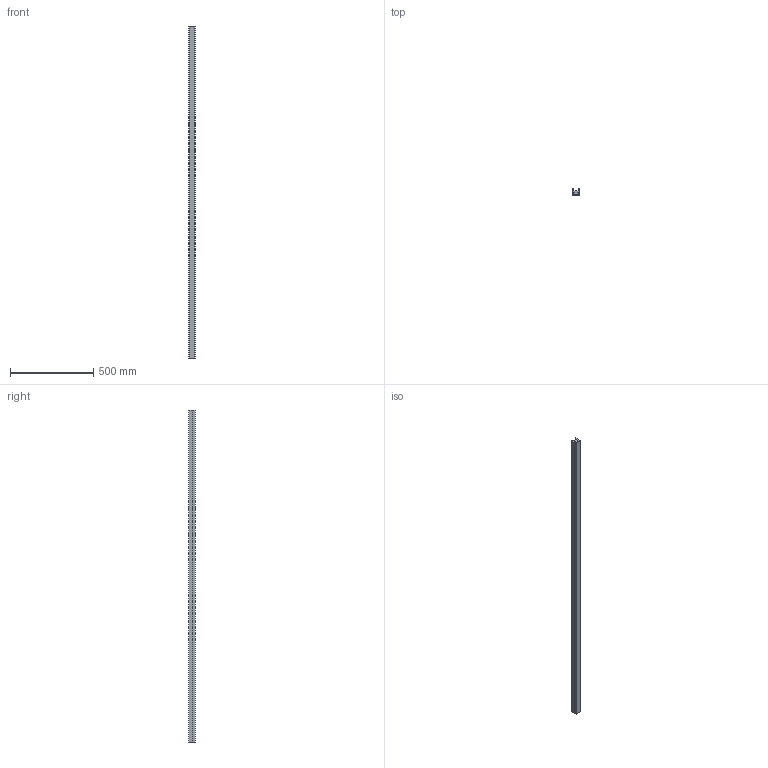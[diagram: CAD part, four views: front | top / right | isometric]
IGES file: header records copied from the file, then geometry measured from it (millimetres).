
Start section: SolidWorks IGES file using analytic representation for surfaces
Global section: file name: C:\Documents and Settings\ARGE\Desktop\yeni katalog tolgay düzenli\E kataloðu\ALPOLEN 1000 UCC ZÝNCÝR KIZAKLARI\207 UCC P38.IGS; native system: SolidWorks 2006 by SolidWorks Corporation; preprocessor: SolidWorks 2006 by SolidWorks Corporation; author: ARGE2; date: 060913.092814; units: millimetre
Bounding box: 38 x 40 x 2000 mm (x, y, z)
Surface area: 760337.9 mm2 (no closed solid volume)
Topology: 0 solids, 0 shells, 40 faces, 272 edges, 272 vertices
Faces by surface type: bspline 36, revolution 4
